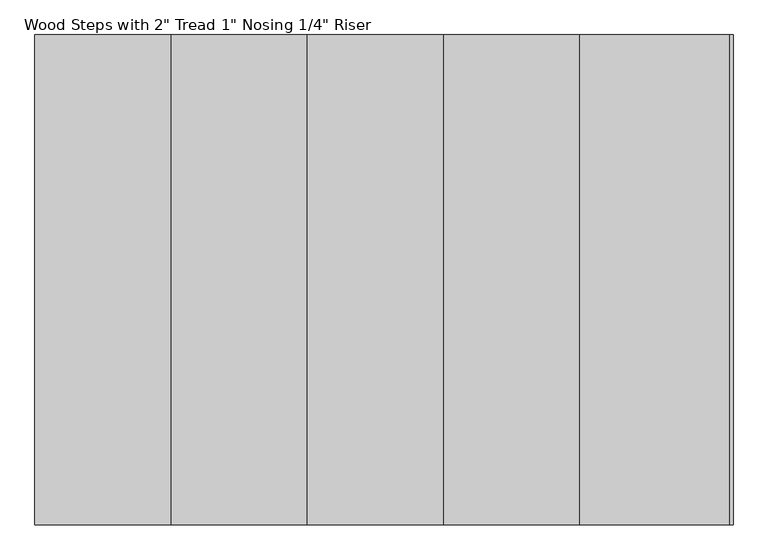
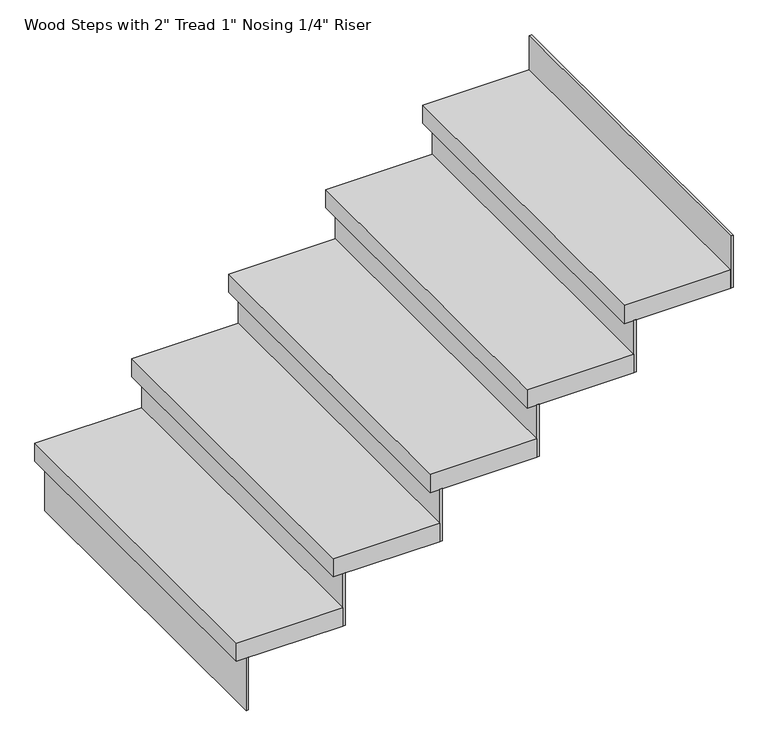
"""IFC4 building model written with IfcOpenShell, lengths in millimetres: stair flight geometry."""

from ifc_helpers import new_model, si_unit, frame, origin, place, context, project, spatial, polyline, outline, extrude, source, transform, mapped, element, save


def stair_flight_0b0cad5c(model_context):
    return source(origin(), model_context, "Body", "SweptSolid", [
        extrude(outline(polyline([(-19100.4405791, 6523.6177722), (-19106.7905791, 6523.6177722), (-19106.7905791, 7438.0177722), (-19100.4405791, 7438.0177722), (-19100.4405791, 6523.6177722)])), frame((0.0, 0.0, 2126.3428571), z_axis=(0.0, 0.0, 1.0), x_axis=(1.0, 0.0, 0.0)), (0.0, 0.0, 1.0), 145.1428571),
        extrude(outline(polyline([(-18852.7905791, 7438.0177722), (-18852.7905791, 6523.6177722), (-19132.1905791, 6523.6177722), (-19132.1905791, 7438.0177722), (-18852.7905791, 7438.0177722)])), frame((0.0, 0.0, 2271.4857143), z_axis=(0.0, 0.0, 1.0), x_axis=(1.0, 0.0, 0.0)), (0.0, 0.0, 1.0), 50.8),
        extrude(outline(polyline([(-18846.4405791, 6523.6177722), (-18852.7905791, 6523.6177722), (-18852.7905791, 7438.0177722), (-18846.4405791, 7438.0177722), (-18846.4405791, 6523.6177722)])), frame((0.0, 0.0, 2271.4857143), z_axis=(0.0, 0.0, 1.0), x_axis=(1.0, 0.0, 0.0)), (0.0, 0.0, 1.0), 145.1428571),
        extrude(outline(polyline([(-18598.7905791, 7438.0177722), (-18598.7905791, 6523.6177722), (-18878.1905791, 6523.6177722), (-18878.1905791, 7438.0177722), (-18598.7905791, 7438.0177722)])), frame((0.0, 0.0, 2416.6285714), z_axis=(0.0, 0.0, 1.0), x_axis=(1.0, 0.0, 0.0)), (0.0, 0.0, 1.0), 50.8),
        extrude(outline(polyline([(-18592.4405791, 6523.6177722), (-18598.7905791, 6523.6177722), (-18598.7905791, 7438.0177722), (-18592.4405791, 7438.0177722), (-18592.4405791, 6523.6177722)])), frame((0.0, 0.0, 2416.6285714), z_axis=(0.0, 0.0, 1.0), x_axis=(1.0, 0.0, 0.0)), (0.0, 0.0, 1.0), 145.1428571),
        extrude(outline(polyline([(-18344.7905791, 7438.0177722), (-18344.7905791, 6523.6177722), (-18624.1905791, 6523.6177722), (-18624.1905791, 7438.0177722), (-18344.7905791, 7438.0177722)])), frame((0.0, 0.0, 2561.7714286), z_axis=(0.0, 0.0, 1.0), x_axis=(1.0, 0.0, 0.0)), (0.0, 0.0, 1.0), 50.8),
        extrude(outline(polyline([(-18338.4405791, 6523.6177722), (-18344.7905791, 6523.6177722), (-18344.7905791, 7438.0177722), (-18338.4405791, 7438.0177722), (-18338.4405791, 6523.6177722)])), frame((0.0, 0.0, 2561.7714286), z_axis=(0.0, 0.0, 1.0), x_axis=(1.0, 0.0, 0.0)), (0.0, 0.0, 1.0), 145.1428571),
        extrude(outline(polyline([(-18090.7905791, 7438.0177722), (-18090.7905791, 6523.6177722), (-18370.1905791, 6523.6177722), (-18370.1905791, 7438.0177722), (-18090.7905791, 7438.0177722)])), frame((0.0, 0.0, 2706.9142857), z_axis=(0.0, 0.0, 1.0), x_axis=(1.0, 0.0, 0.0)), (0.0, 0.0, 1.0), 50.8),
        extrude(outline(polyline([(-18084.4405791, 6523.6177722), (-18090.7905791, 6523.6177722), (-18090.7905791, 7438.0177722), (-18084.4405791, 7438.0177722), (-18084.4405791, 6523.6177722)])), frame((0.0, 0.0, 2706.9142857), z_axis=(0.0, 0.0, 1.0), x_axis=(1.0, 0.0, 0.0)), (0.0, 0.0, 1.0), 145.1428571),
        extrude(outline(polyline([(-17830.4405791, 6523.6177722), (-17836.7905791, 6523.6177722), (-17836.7905791, 7438.0177722), (-17830.4405791, 7438.0177722), (-17830.4405791, 6523.6177722)])), frame((0.0, 0.0, 2852.0571429), z_axis=(0.0, 0.0, 1.0), x_axis=(1.0, 0.0, 0.0)), (0.0, 0.0, 1.0), 145.1428571),
        extrude(outline(polyline([(-17836.7905791, 7438.0177722), (-17836.7905791, 6523.6177722), (-18116.1905791, 6523.6177722), (-18116.1905791, 7438.0177722), (-17836.7905791, 7438.0177722)])), frame((0.0, 0.0, 2852.0571429), z_axis=(0.0, 0.0, 1.0), x_axis=(1.0, 0.0, 0.0)), (0.0, 0.0, 1.0), 50.8),
    ])


if __name__ == "__main__":
    model = new_model("IFC4")
    model_context = context("Model", 3, world=origin())
    ifc_project = project(units=[si_unit("LENGTHUNIT", "METRE", prefix="MILLI")], contexts=[model_context])
    site = spatial("IfcSite", under=ifc_project)
    building = spatial("IfcBuilding", under=site)
    placement = place(None, origin())
    stair_flight_shape = stair_flight_0b0cad5c(model_context)
    element("IfcStairFlight", 1, ObjectType="Wood Steps with 2\" Tread 1\" Nosing 1/4\" Riser", at=placement, inside=building, context=model_context, shape_type="MappedRepresentation", body=[
        mapped(stair_flight_shape, transform((0.0, 0.0, 0.0), x_axis=(1.0, 0.0, 0.0), y_axis=(0.0, 1.0, 0.0), z_axis=(0.0, 0.0, 1.0))),
    ])
    save(model, "model.ifc")
